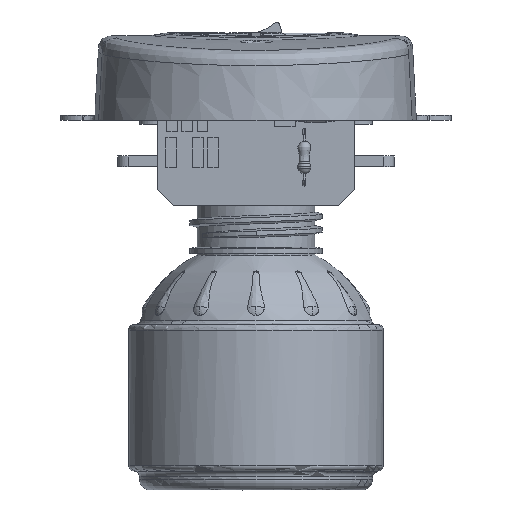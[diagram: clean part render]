
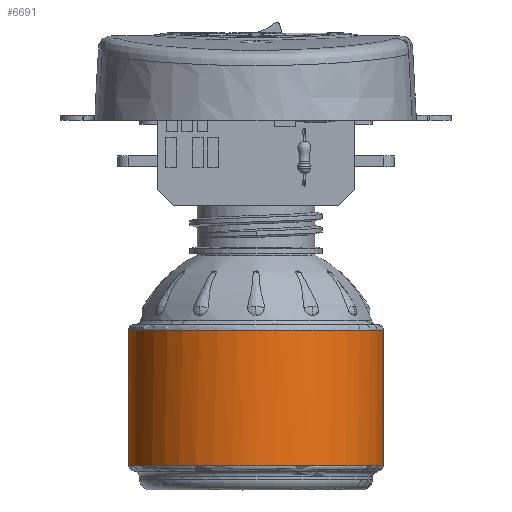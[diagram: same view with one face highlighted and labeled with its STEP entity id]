
A CAD part, left-side view. The second image highlights one B-rep face of the part: STEP entity #6691.
In plain terms, the highlighted cylindrical face has radius 23.5 mm (diameter 47 mm), a partial arc.
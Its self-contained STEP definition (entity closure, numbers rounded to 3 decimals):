
#3889=CYLINDRICAL_SURFACE('',#31650,23.5);
#4652=FACE_OUTER_BOUND('',#13494,.T.);
#6691=ADVANCED_FACE('',(#4652),#3889,.T.);
#13494=EDGE_LOOP('',(#17911,#17912,#17913,#17914,#17915,#17916));
#17911=ORIENTED_EDGE('',*,*,#26837,.T.);
#17912=ORIENTED_EDGE('',*,*,#26841,.F.);
#17913=ORIENTED_EDGE('',*,*,#26842,.T.);
#17914=ORIENTED_EDGE('',*,*,#26843,.T.);
#17915=ORIENTED_EDGE('',*,*,#26844,.F.);
#17916=ORIENTED_EDGE('',*,*,#26838,.T.);
#23615=VERTEX_POINT('',#45164);
#23616=VERTEX_POINT('',#45169);
#23617=VERTEX_POINT('',#45176);
#23619=VERTEX_POINT('',#45192);
#23620=VERTEX_POINT('',#45199);
#23621=VERTEX_POINT('',#45206);
#26837=EDGE_CURVE('',#23617,#23616,#29566,.T.);
#26838=EDGE_CURVE('',#23615,#23617,#29567,.T.);
#26841=EDGE_CURVE('',#23619,#23616,#29568,.T.);
#26842=EDGE_CURVE('',#23619,#23620,#29569,.T.);
#26843=EDGE_CURVE('',#23620,#23621,#29570,.T.);
#26844=EDGE_CURVE('',#23615,#23621,#29571,.T.);
#29566=B_SPLINE_CURVE_WITH_KNOTS('',3,(#45170,#45171,#45172,#45173,#45174,
#45175),.UNSPECIFIED.,.F.,.F.,(4,2,4),(0.,0.5,1.),.UNSPECIFIED.);
#29567=B_SPLINE_CURVE_WITH_KNOTS('',3,(#45177,#45178,#45179,#45180,#45181,
#45182),.UNSPECIFIED.,.F.,.F.,(4,2,4),(0.,0.5,1.),.UNSPECIFIED.);
#29568=B_SPLINE_CURVE_WITH_KNOTS('',3,(#45188,#45189,#45190,#45191),
 .UNSPECIFIED.,.F.,.F.,(4,4),(0.,1.),.UNSPECIFIED.);
#29569=B_SPLINE_CURVE_WITH_KNOTS('',3,(#45193,#45194,#45195,#45196,#45197,
#45198),.UNSPECIFIED.,.F.,.F.,(4,2,4),(0.,0.5,1.),.UNSPECIFIED.);
#29570=B_SPLINE_CURVE_WITH_KNOTS('',3,(#45200,#45201,#45202,#45203,#45204,
#45205),.UNSPECIFIED.,.F.,.F.,(4,2,4),(0.,0.5,1.),.UNSPECIFIED.);
#29571=B_SPLINE_CURVE_WITH_KNOTS('',3,(#45207,#45208,#45209,#45210),
 .UNSPECIFIED.,.F.,.F.,(4,4),(0.,1.),.UNSPECIFIED.);
#31650=AXIS2_PLACEMENT_3D('',#45211,#35527,#35528);
#35527=DIRECTION('',(0.,0.,-1.));
#35528=DIRECTION('',(-1.,0.,0.));
#45164=CARTESIAN_POINT('',(11.134,29.728,-74.534));
#45169=CARTESIAN_POINT('',(11.134,-17.272,-74.534));
#45170=CARTESIAN_POINT('',(-12.366,6.228,-74.534));
#45171=CARTESIAN_POINT('',(-12.366,0.076,-74.534));
#45172=CARTESIAN_POINT('',(-9.833,-6.039,-74.534));
#45173=CARTESIAN_POINT('',(-1.132,-14.739,-74.534));
#45174=CARTESIAN_POINT('',(4.982,-17.272,-74.534));
#45175=CARTESIAN_POINT('',(11.134,-17.272,-74.534));
#45176=CARTESIAN_POINT('',(-12.366,6.228,-74.534));
#45177=CARTESIAN_POINT('',(11.134,29.728,-74.534));
#45178=CARTESIAN_POINT('',(4.982,29.728,-74.534));
#45179=CARTESIAN_POINT('',(-1.132,27.195,-74.534));
#45180=CARTESIAN_POINT('',(-9.833,18.495,-74.534));
#45181=CARTESIAN_POINT('',(-12.366,12.38,-74.534));
#45182=CARTESIAN_POINT('',(-12.366,6.228,-74.534));
#45188=CARTESIAN_POINT('',(11.134,-17.272,-49.534));
#45189=CARTESIAN_POINT('',(11.134,-17.272,-57.867));
#45190=CARTESIAN_POINT('',(11.134,-17.272,-66.2));
#45191=CARTESIAN_POINT('',(11.134,-17.272,-74.534));
#45192=CARTESIAN_POINT('',(11.134,-17.272,-49.534));
#45193=CARTESIAN_POINT('',(11.134,-17.272,-49.534));
#45194=CARTESIAN_POINT('',(4.982,-17.272,-49.534));
#45195=CARTESIAN_POINT('',(-1.132,-14.739,-49.534));
#45196=CARTESIAN_POINT('',(-9.833,-6.039,-49.534));
#45197=CARTESIAN_POINT('',(-12.366,0.076,-49.534));
#45198=CARTESIAN_POINT('',(-12.366,6.228,-49.534));
#45199=CARTESIAN_POINT('',(-12.366,6.228,-49.534));
#45200=CARTESIAN_POINT('',(-12.366,6.228,-49.534));
#45201=CARTESIAN_POINT('',(-12.366,12.38,-49.534));
#45202=CARTESIAN_POINT('',(-9.833,18.495,-49.534));
#45203=CARTESIAN_POINT('',(-1.132,27.195,-49.534));
#45204=CARTESIAN_POINT('',(4.982,29.728,-49.534));
#45205=CARTESIAN_POINT('',(11.134,29.728,-49.534));
#45206=CARTESIAN_POINT('',(11.134,29.728,-49.534));
#45207=CARTESIAN_POINT('',(11.134,29.728,-74.534));
#45208=CARTESIAN_POINT('',(11.134,29.728,-66.2));
#45209=CARTESIAN_POINT('',(11.134,29.728,-57.867));
#45210=CARTESIAN_POINT('',(11.134,29.728,-49.534));
#45211=CARTESIAN_POINT('',(11.134,6.228,-46.938));
